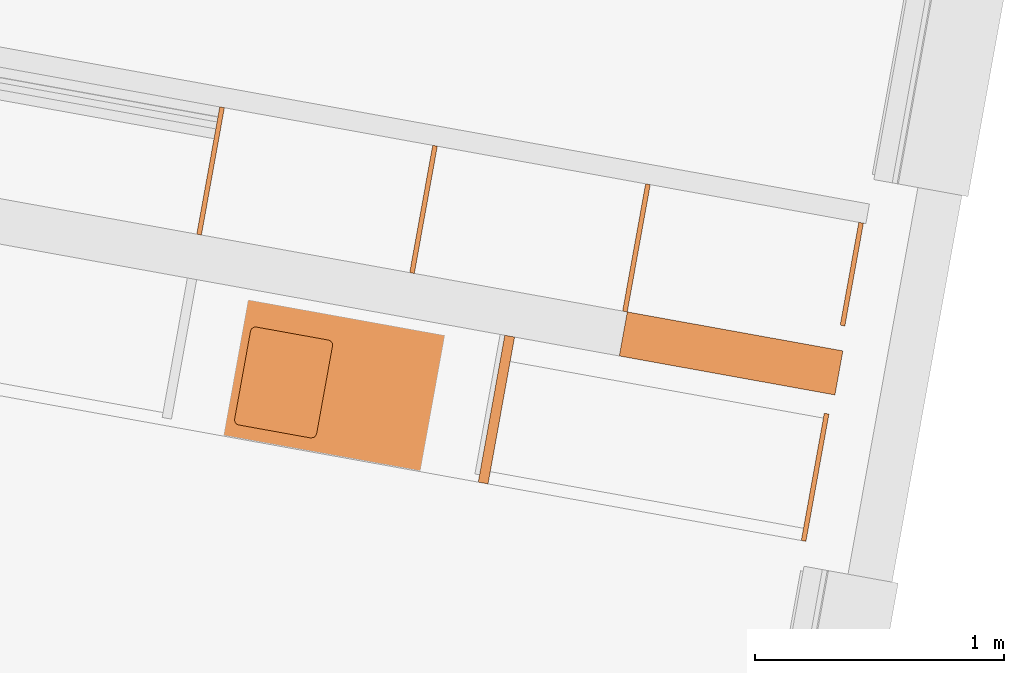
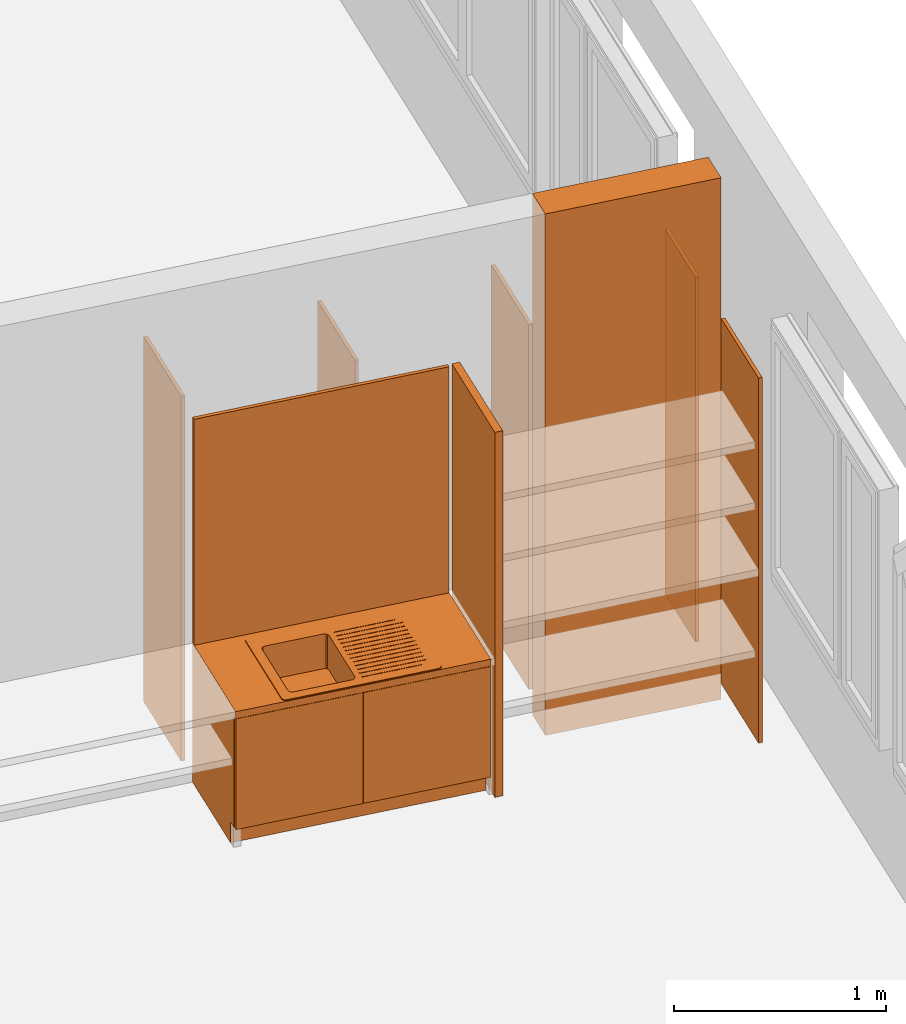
# One storey, part 12 of 52: 8 proxies.
"""IFC2X3 building model written with IfcOpenShell, lengths in metres."""

from ifc_helpers import new_model, entity, si_unit, converted_unit, derived_unit, money_unit, direction, frame, origin_with_axes, place, context, subcontext, project, spatial, polyline, outline, extrude, open_shell, faceted_brep, surface_model, source, transform, mapped, material, type_object, element, save


model = new_model("IFC2X3")

# Units and contexts
model_context = context("Model", 3, precision=1e-05, world=origin_with_axes(), true_north=direction((0.0, 1.0)))
body_context = subcontext(model_context, "Body", "Model", "MODEL_VIEW")
ifc_project = project(units=[si_unit("LENGTHUNIT", "METRE"), si_unit("AREAUNIT", "SQUARE_METRE"), si_unit("VOLUMEUNIT", "CUBIC_METRE"), converted_unit("PLANEANGLEUNIT", "DEGREE", entity("IfcPlaneAngleMeasure", 0.0174532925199), si_unit("PLANEANGLEUNIT", "RADIAN"), dimensions=[0, 0, 0, 0, 0, 0, 0]), money_unit("CHF"), converted_unit("TIMEUNIT", "Year", entity("IfcTimeMeasure", 31556926.0), si_unit("TIMEUNIT", "SECOND"), dimensions=[0, 0, 1, 0, 0, 0, 0]), si_unit("MASSUNIT", "GRAM", prefix="KILO"), si_unit("THERMODYNAMICTEMPERATUREUNIT", "DEGREE_CELSIUS"), si_unit("LUMINOUSINTENSITYUNIT", "LUMEN"), si_unit("ENERGYUNIT", "JOULE", prefix="MEGA"), derived_unit("THERMALCONDUCTANCEUNIT", [(si_unit("POWERUNIT", "WATT"), 1), (si_unit("LENGTHUNIT", "METRE"), -1), (si_unit("THERMODYNAMICTEMPERATUREUNIT", "KELVIN"), -1)]), derived_unit("SPECIFICHEATCAPACITYUNIT", [(si_unit("ENERGYUNIT", "JOULE"), 1), (si_unit("MASSUNIT", "GRAM", prefix="KILO"), -1), (si_unit("THERMODYNAMICTEMPERATUREUNIT", "KELVIN"), -1)]), derived_unit("MASSDENSITYUNIT", [(si_unit("MASSUNIT", "GRAM", prefix="KILO"), 1), (si_unit("VOLUMEUNIT", "CUBIC_METRE"), -1)])], contexts=[model_context])

# Site, building, storey
site_placement = place(None, frame((0.0, 0.0, 0.0), z_axis=(0.0, 0.0, 1.0), x_axis=(-0.177771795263, -0.984071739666, 0.0)))
site = spatial("IfcSite", under=ifc_project, at=site_placement, Name="Site", CompositionType="ELEMENT")
building_placement = place(site_placement, origin_with_axes())
building = spatial("IfcBuilding", under=site, at=building_placement, Name="Bâtiment", CompositionType="ELEMENT")
storey_placement = place(building_placement, frame((0.0, 0.0, 3.2), z_axis=(0.0, 0.0, 1.0), x_axis=(1.0, 0.0, 0.0)))
storey = spatial("IfcBuildingStorey", under=building, at=storey_placement, Name="R+1", CompositionType="ELEMENT", Elevation=3.2)

# Proxies
ifc_material_1 = material(Name="_panneau mélaminé")
building_element_proxy_type_1 = type_object("IfcBuildingElementProxyType", Name="_panneau mélaminé 40", PredefinedType="NOTDEFINED")
proxy_1_placement = place(storey_placement, frame((156.299841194, -149.826151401, 0.0), z_axis=(0.0, 0.0, 1.0), x_axis=(-1.0, 0.0, 0.0)))
element("IfcBuildingElementProxy", 1, at=proxy_1_placement, inside=storey, type_object=building_element_proxy_type_1, material=ifc_material_1, Name="cloison-fd-classe D", context=body_context, shape_type="SweptSolid", body=[
    extrude(outline(polyline([(0.0, -0.04), (0.600000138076, -0.04), (0.600000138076, 0.0), (0.0, 0.0), (0.0, -0.04)])), origin_with_axes(), (0.0, 0.0, 1.0), 2.1),
])
building_element_proxy_type_2 = type_object("IfcBuildingElementProxyType", Name="_panneau mélaminé 19", PredefinedType="NOTDEFINED")
proxy_2_placement = place(storey_placement, frame((156.299841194, -148.506151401, 0.0), z_axis=(0.0, 0.0, 1.0), x_axis=(-1.0, 0.0, 0.0)))
element("IfcBuildingElementProxy", 2, at=proxy_2_placement, inside=storey, type_object=building_element_proxy_type_2, material=ifc_material_1, Name="cloison-fd-classe D", context=body_context, shape_type="SweptSolid", body=[
    extrude(outline(polyline([(0.0, -0.019), (0.520000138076, -0.019), (0.520000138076, 0.0), (0.0, 0.0), (0.0, -0.019)])), origin_with_axes(), (0.0, 0.0, 1.0), 2.1),
])
proxy_3_placement = place(storey_placement, frame((155.419841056, -148.506152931, 0.0), z_axis=(0.0, 0.0, 1.0), x_axis=(-1.0, 0.0, 0.0)))
element("IfcBuildingElementProxy", 3, at=proxy_3_placement, inside=storey, type_object=building_element_proxy_type_2, material=ifc_material_1, Name="cloison pl-classe", context=body_context, shape_type="SweptSolid", body=[
    extrude(outline(polyline([(0.0, -0.019), (0.41999998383, -0.019), (0.41999998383, 0.0), (0.0, 0.0), (0.0, -0.019)])), origin_with_axes(), (0.0, 0.0, 1.0), 2.1),
])
for number, where, z_axis, x_axis, name in (
    (4, (155.519841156, -149.367651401, 0.0), (0.0, 0.0, 1.0), (-1.0, 0.0, 0.0), "cloison pl-classe"),
    (5, (155.519841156, -150.237651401, 0.0), (0.0, 0.0, 1.0), (-1.0, 0.0, 0.0), "cloison pl-classe"),
):
    element("IfcBuildingElementProxy", number, at=place(storey_placement, frame(where, z_axis=z_axis, x_axis=x_axis)), inside=storey, type_object=building_element_proxy_type_2, material=ifc_material_1, Name=name, context=body_context, shape_type="SweptSolid", body=[
        extrude(outline(polyline([(0.0, -0.0095), (0.520000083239, -0.0095), (0.520000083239, 0.0095), (0.0, 0.0095), (0.0, -0.0095)])), origin_with_axes(), (0.0, 0.0, 1.0), 2.1),
    ])
proxy_4_placement = place(storey_placement, frame((155.51984114, -151.107651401, 0.0), z_axis=(0.0, 0.0, 1.0), x_axis=(-1.0, 0.0, 0.0)))
element("IfcBuildingElementProxy", 6, at=proxy_4_placement, inside=storey, type_object=building_element_proxy_type_2, material=ifc_material_1, Name="cloison pl-classe", context=body_context, shape_type="SweptSolid", body=[
    extrude(outline(polyline([(0.0, -0.0095), (0.520000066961, -0.0095), (0.520000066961, 0.0095), (0.0, 0.0095), (0.0, -0.0095)])), origin_with_axes(), (0.0, 0.0, 1.0), 2.1),
])
ifc_material_2 = material(Name="_BA banché RAL9007")
building_element_proxy_type_3 = type_object("IfcBuildingElementProxyType", Name="_M ext 18 +10 gris 280", PredefinedType="NOTDEFINED")
proxy_5_placement = place(storey_placement, frame((155.699841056, -149.358151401, -0.15), z_axis=(0.0, 0.0, 1.0), x_axis=(0.0, 1.0, 0.0)))
element("IfcBuildingElementProxy", 7, at=proxy_5_placement, inside=storey, type_object=building_element_proxy_type_3, material=ifc_material_2, Name="M retour_isol", context=body_context, shape_type="SweptSolid", body=[
    extrude(outline(polyline([(0.0, 0.0), (0.881001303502, 0.0), (0.881001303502, 0.18), (0.0, 0.18), (0.0, 0.0)])), origin_with_axes(), (0.0, 0.0, 1.0), 3.0),
])
ifc_material_3 = material(Name="Matériau de construction IFC")
building_element_proxy_type_4 = type_object("IfcBuildingElementProxyType", Name="Elément simple avec deux portes 21", PredefinedType="NOTDEFINED")
shared_shape = source(origin_with_axes(), body_context, "Body", "SurfaceModel", [
    surface_model("IfcShellBasedSurfaceModel", [(0.5, 0.600000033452, 0.733), (0.496505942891, 0.600000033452, 0.733460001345), (0.496505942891, 0.620000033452, 0.733460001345), (0.5, 0.620000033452, 0.733), (0.49325, 0.600000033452, 0.734808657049), (0.49325, 0.620000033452, 0.734808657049), (0.503494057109, 0.600000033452, 0.733460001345), (0.503494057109, 0.620000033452, 0.733460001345), (0.490454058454, 0.600000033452, 0.736954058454), (0.490454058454, 0.620000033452, 0.736954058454), (0.50675, 0.600000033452, 0.734808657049), (0.50675, 0.620000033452, 0.734808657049), (0.488308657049, 0.600000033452, 0.73975), (0.488308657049, 0.620000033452, 0.73975), (0.509545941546, 0.600000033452, 0.736954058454), (0.509545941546, 0.620000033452, 0.736954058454), (0.486960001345, 0.600000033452, 0.743005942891), (0.486960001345, 0.620000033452, 0.743005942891), (0.511691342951, 0.600000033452, 0.73975), (0.511691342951, 0.620000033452, 0.73975), (0.4865, 0.600000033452, 0.7465), (0.4865, 0.620000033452, 0.7465), (0.513039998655, 0.600000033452, 0.743005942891), (0.513039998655, 0.620000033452, 0.743005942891), (0.486960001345, 0.600000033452, 0.749994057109), (0.486960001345, 0.620000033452, 0.749994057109), (0.5135, 0.600000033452, 0.7465), (0.5135, 0.620000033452, 0.7465), (0.488308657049, 0.600000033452, 0.75325), (0.488308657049, 0.620000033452, 0.75325), (0.513039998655, 0.600000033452, 0.749994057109), (0.513039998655, 0.620000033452, 0.749994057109), (0.490454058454, 0.600000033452, 0.756045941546), (0.490454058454, 0.620000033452, 0.756045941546), (0.511691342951, 0.600000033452, 0.75325), (0.511691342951, 0.620000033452, 0.75325), (0.49325, 0.600000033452, 0.758191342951), (0.49325, 0.620000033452, 0.758191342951), (0.509545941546, 0.600000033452, 0.756045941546), (0.509545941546, 0.620000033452, 0.756045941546), (0.496505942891, 0.600000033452, 0.759539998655), (0.496505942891, 0.620000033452, 0.759539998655), (0.50675, 0.600000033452, 0.758191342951), (0.50675, 0.620000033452, 0.758191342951), (0.5, 0.600000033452, 0.76), (0.5, 0.620000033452, 0.76), (0.503494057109, 0.600000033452, 0.759539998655), (0.503494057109, 0.620000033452, 0.759539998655)], [open_shell([[[0, 1, 2, 3]], [[1, 4, 5, 2]], [[6, 0, 3, 7]], [[4, 8, 9, 5]], [[10, 6, 7, 11]], [[8, 12, 13, 9]], [[14, 10, 11, 15]], [[12, 16, 17, 13]], [[18, 14, 15, 19]], [[16, 20, 21, 17]], [[22, 18, 19, 23]], [[20, 24, 25, 21]], [[26, 22, 23, 27]], [[24, 28, 29, 25]], [[30, 26, 27, 31]], [[28, 32, 33, 29]], [[34, 30, 31, 35]], [[32, 36, 37, 33]], [[38, 34, 35, 39]], [[36, 40, 41, 37]], [[42, 38, 39, 43]], [[40, 44, 45, 41]], [[46, 42, 43, 47]], [[44, 46, 47, 45]]])]),
    surface_model("IfcShellBasedSurfaceModel", [(0.7, 0.600000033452, 0.733), (0.696505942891, 0.600000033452, 0.733460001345), (0.696505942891, 0.620000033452, 0.733460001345), (0.7, 0.620000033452, 0.733), (0.69325, 0.600000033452, 0.734808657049), (0.69325, 0.620000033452, 0.734808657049), (0.703494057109, 0.600000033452, 0.733460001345), (0.703494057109, 0.620000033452, 0.733460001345), (0.690454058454, 0.600000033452, 0.736954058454), (0.690454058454, 0.620000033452, 0.736954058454), (0.70675, 0.600000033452, 0.734808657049), (0.70675, 0.620000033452, 0.734808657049), (0.688308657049, 0.600000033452, 0.73975), (0.688308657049, 0.620000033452, 0.73975), (0.709545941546, 0.600000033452, 0.736954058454), (0.709545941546, 0.620000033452, 0.736954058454), (0.686960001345, 0.600000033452, 0.743005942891), (0.686960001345, 0.620000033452, 0.743005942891), (0.711691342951, 0.600000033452, 0.73975), (0.711691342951, 0.620000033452, 0.73975), (0.6865, 0.600000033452, 0.7465), (0.6865, 0.620000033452, 0.7465), (0.713039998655, 0.600000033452, 0.743005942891), (0.713039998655, 0.620000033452, 0.743005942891), (0.686960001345, 0.600000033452, 0.749994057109), (0.686960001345, 0.620000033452, 0.749994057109), (0.7135, 0.600000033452, 0.7465), (0.7135, 0.620000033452, 0.7465), (0.688308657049, 0.600000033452, 0.75325), (0.688308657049, 0.620000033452, 0.75325), (0.713039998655, 0.600000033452, 0.749994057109), (0.713039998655, 0.620000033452, 0.749994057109), (0.690454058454, 0.600000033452, 0.756045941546), (0.690454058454, 0.620000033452, 0.756045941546), (0.711691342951, 0.600000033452, 0.75325), (0.711691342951, 0.620000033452, 0.75325), (0.69325, 0.600000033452, 0.758191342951), (0.69325, 0.620000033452, 0.758191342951), (0.709545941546, 0.600000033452, 0.756045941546), (0.709545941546, 0.620000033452, 0.756045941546), (0.696505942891, 0.600000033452, 0.759539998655), (0.696505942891, 0.620000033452, 0.759539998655), (0.70675, 0.600000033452, 0.758191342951), (0.70675, 0.620000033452, 0.758191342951), (0.7, 0.600000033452, 0.76), (0.7, 0.620000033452, 0.76), (0.703494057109, 0.600000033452, 0.759539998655), (0.703494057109, 0.620000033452, 0.759539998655)], [open_shell([[[0, 1, 2, 3]], [[1, 4, 5, 2]], [[6, 0, 3, 7]], [[4, 8, 9, 5]], [[10, 6, 7, 11]], [[8, 12, 13, 9]], [[14, 10, 11, 15]], [[12, 16, 17, 13]], [[18, 14, 15, 19]], [[16, 20, 21, 17]], [[22, 18, 19, 23]], [[20, 24, 25, 21]], [[26, 22, 23, 27]], [[24, 28, 29, 25]], [[30, 26, 27, 31]], [[28, 32, 33, 29]], [[34, 30, 31, 35]], [[32, 36, 37, 33]], [[38, 34, 35, 39]], [[36, 40, 41, 37]], [[42, 38, 39, 43]], [[40, 44, 45, 41]], [[46, 42, 43, 47]], [[44, 46, 47, 45]]])]),
    surface_model("IfcShellBasedSurfaceModel", [(0.6, 0.600000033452, 0.579), (0.594564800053, 0.600000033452, 0.579715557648), (0.594564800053, 0.620000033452, 0.579715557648), (0.6, 0.620000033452, 0.579), (0.5895, 0.600000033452, 0.581813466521), (0.5895, 0.620000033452, 0.581813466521), (0.605435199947, 0.600000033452, 0.579715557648), (0.605435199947, 0.620000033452, 0.579715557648), (0.585150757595, 0.600000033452, 0.585150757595), (0.585150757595, 0.620000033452, 0.585150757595), (0.6105, 0.600000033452, 0.581813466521), (0.6105, 0.620000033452, 0.581813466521), (0.581813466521, 0.600000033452, 0.5895), (0.581813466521, 0.620000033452, 0.5895), (0.614849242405, 0.600000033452, 0.585150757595), (0.614849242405, 0.620000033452, 0.585150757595), (0.579715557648, 0.600000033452, 0.594564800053), (0.579715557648, 0.620000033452, 0.594564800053), (0.618186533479, 0.600000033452, 0.5895), (0.618186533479, 0.620000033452, 0.5895), (0.579, 0.600000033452, 0.6), (0.579, 0.620000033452, 0.6), (0.620284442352, 0.600000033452, 0.594564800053), (0.620284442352, 0.620000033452, 0.594564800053), (0.579715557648, 0.600000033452, 0.605435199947), (0.579715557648, 0.620000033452, 0.605435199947), (0.621, 0.600000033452, 0.6), (0.621, 0.620000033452, 0.6), (0.581813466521, 0.600000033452, 0.6105), (0.581813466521, 0.620000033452, 0.6105), (0.620284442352, 0.600000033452, 0.605435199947), (0.620284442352, 0.620000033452, 0.605435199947), (0.585150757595, 0.600000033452, 0.614849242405), (0.585150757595, 0.620000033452, 0.614849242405), (0.618186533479, 0.600000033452, 0.6105), (0.618186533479, 0.620000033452, 0.6105), (0.5895, 0.600000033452, 0.618186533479), (0.5895, 0.620000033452, 0.618186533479), (0.614849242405, 0.600000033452, 0.614849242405), (0.614849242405, 0.620000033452, 0.614849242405), (0.594564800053, 0.600000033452, 0.620284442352), (0.594564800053, 0.620000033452, 0.620284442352), (0.6105, 0.600000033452, 0.618186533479), (0.6105, 0.620000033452, 0.618186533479), (0.6, 0.600000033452, 0.621), (0.6, 0.620000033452, 0.621), (0.605435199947, 0.600000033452, 0.620284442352), (0.605435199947, 0.620000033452, 0.620284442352)], [open_shell([[[0, 1, 2, 3]], [[1, 4, 5, 2]], [[6, 0, 3, 7]], [[4, 8, 9, 5]], [[10, 6, 7, 11]], [[8, 12, 13, 9]], [[14, 10, 11, 15]], [[12, 16, 17, 13]], [[18, 14, 15, 19]], [[16, 20, 21, 17]], [[22, 18, 19, 23]], [[20, 24, 25, 21]], [[26, 22, 23, 27]], [[24, 28, 29, 25]], [[30, 26, 27, 31]], [[28, 32, 33, 29]], [[34, 30, 31, 35]], [[32, 36, 37, 33]], [[38, 34, 35, 39]], [[36, 40, 41, 37]], [[42, 38, 39, 43]], [[40, 44, 45, 41]], [[46, 42, 43, 47]], [[44, 46, 47, 45]]])]),
    faceted_brep([(0.0, 0.07, 0.0), (1.278, 0.07, 0.0), (1.278, 0.07, 0.12), (0.0, 0.07, 0.12), (0.0, 0.600000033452, 0.0), (1.278, 0.600000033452, 0.0), (1.278, 0.600000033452, 0.12), (0.0, 0.600000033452, 0.12)], [[[0, 1, 2, 3]], [[0, 4, 5, 1]], [[1, 5, 6, 2]], [[3, 2, 6, 7]], [[4, 0, 3, 7]], [[5, 4, 7, 6]]]),
    faceted_brep([(0.0, 0.02, 0.12), (0.02, 0.02, 0.12), (0.02, 0.02, 0.14), (0.0, 0.02, 0.14), (0.0, 0.600000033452, 0.12), (0.02, 0.600000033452, 0.12), (1.258, 0.600000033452, 0.12), (1.278, 0.600000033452, 0.12), (1.278, 0.02, 0.12), (1.258, 0.02, 0.12), (1.258, 0.02, 0.14), (1.278, 0.02, 0.14), (1.278, 0.600000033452, 0.14), (1.258, 0.600000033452, 0.14), (0.02, 0.600000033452, 0.14), (0.0, 0.600000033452, 0.14)], [[[0, 1, 2, 3]], [[0, 4, 5, 6, 7, 8, 9, 1]], [[1, 9, 10, 2]], [[3, 2, 10, 11, 12, 13, 14, 15]], [[4, 0, 3, 15]], [[5, 4, 15, 14]], [[6, 5, 14, 13]], [[7, 6, 13, 12]], [[8, 7, 12, 11]], [[9, 8, 11, 10]]]),
    faceted_brep([(0.0, 0.02, 0.14), (0.02, 0.02, 0.14), (0.02, 0.02, 0.76), (0.0, 0.02, 0.76), (0.0, 0.600000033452, 0.14), (1.278, 0.600000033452, 0.14), (1.278, 0.02, 0.14), (1.258, 0.02, 0.14), (1.258, 0.580000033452, 0.14), (0.02, 0.580000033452, 0.14), (0.02, 0.580000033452, 0.76), (1.258, 0.580000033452, 0.76), (1.258, 0.02, 0.76), (1.278, 0.02, 0.76), (1.278, 0.600000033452, 0.76), (0.0, 0.600000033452, 0.76)], [[[0, 1, 2, 3]], [[0, 4, 5, 6, 7, 8, 9, 1]], [[1, 9, 10, 2]], [[3, 2, 10, 11, 12, 13, 14, 15]], [[4, 0, 3, 15]], [[5, 4, 15, 14]], [[6, 5, 14, 13]], [[7, 6, 13, 12]], [[8, 7, 12, 11]], [[9, 8, 11, 10]]]),
    faceted_brep([(1.258, 0.02, 0.41), (1.258, 0.580000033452, 0.41), (1.258, 0.580000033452, 0.43), (1.258, 0.02, 0.43), (0.02, 0.02, 0.41), (0.02, 0.580000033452, 0.41), (0.02, 0.580000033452, 0.43), (0.02, 0.02, 0.43)], [[[0, 1, 2, 3]], [[0, 4, 5, 1]], [[1, 5, 6, 2]], [[3, 2, 6, 7]], [[4, 0, 3, 7]], [[5, 4, 7, 6]]]),
    surface_model("IfcShellBasedSurfaceModel", [(0.309, 0.0550000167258, 0.605), (0.604, 0.0550000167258, 0.605), (0.604, 0.0550000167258, 0.8), (0.309, 0.0550000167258, 0.8), (0.299, 0.0576795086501, 0.605), (0.291679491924, 0.0650000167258, 0.605), (0.289, 0.0750000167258, 0.605), (0.289, 0.435000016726, 0.605), (0.291679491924, 0.445000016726, 0.605), (0.299, 0.452320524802, 0.605), (0.309, 0.455000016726, 0.605), (0.604, 0.455000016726, 0.605), (0.614, 0.452320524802, 0.605), (0.621320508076, 0.445000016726, 0.605), (0.624, 0.435000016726, 0.605), (0.624, 0.0750000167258, 0.605), (0.618142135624, 0.0608578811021, 0.605), (0.618142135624, 0.0608578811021, 0.8), (0.299, 0.0576795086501, 0.8), (0.291679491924, 0.0650000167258, 0.8), (0.289, 0.0750000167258, 0.8), (0.289, 0.435000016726, 0.8), (0.291679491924, 0.445000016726, 0.8), (0.299, 0.452320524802, 0.8), (0.309, 0.455000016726, 0.8), (0.604, 0.455000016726, 0.8), (0.614, 0.452320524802, 0.8), (0.621320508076, 0.445000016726, 0.8), (0.624, 0.435000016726, 0.8), (0.624, 0.0750000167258, 0.8)], [open_shell([[[0, 1, 2, 3]], [[0, 4, 5, 6, 7, 8, 9, 10, 11, 12, 13, 14, 15, 16, 1]], [[1, 16, 17, 2]], [[4, 0, 3, 18]], [[5, 4, 18, 19]], [[6, 5, 19, 20]], [[7, 6, 20, 21]], [[8, 7, 21, 22]], [[9, 8, 22, 23]], [[10, 9, 23, 24]], [[11, 10, 24, 25]], [[12, 11, 25, 26]], [[13, 12, 26, 27]], [[14, 13, 27, 28]], [[15, 14, 28, 29]], [[16, 15, 29, 17]]])]),
    faceted_brep([(0.259, 0.00500001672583, 0.8), (1.019, 0.00500001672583, 0.8), (1.019, 0.00500001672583, 0.805), (0.259, 0.00500001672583, 0.805), (0.249, 0.00767950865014, 0.8), (0.241679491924, 0.0150000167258, 0.8), (0.239, 0.0250000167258, 0.8), (0.239, 0.535000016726, 0.8), (0.241679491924, 0.545000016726, 0.8), (0.249, 0.552320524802, 0.8), (0.259, 0.555000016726, 0.8), (1.019, 0.555000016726, 0.8), (1.029, 0.552320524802, 0.8), (1.03632050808, 0.545000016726, 0.8), (1.039, 0.535000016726, 0.8), (1.039, 0.0250000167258, 0.8), (1.03314213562, 0.0108578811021, 0.8), (0.309, 0.0550000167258, 0.8), (0.604, 0.0550000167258, 0.8), (0.618142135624, 0.0608578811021, 0.8), (0.624, 0.0750000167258, 0.8), (0.624, 0.435000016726, 0.8), (0.621320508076, 0.445000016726, 0.8), (0.614, 0.452320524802, 0.8), (0.604, 0.455000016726, 0.8), (0.309, 0.455000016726, 0.8), (0.299, 0.452320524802, 0.8), (0.291679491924, 0.445000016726, 0.8), (0.289, 0.435000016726, 0.8), (0.289, 0.0750000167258, 0.8), (0.291679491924, 0.0650000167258, 0.8), (0.299, 0.0576795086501, 0.8), (1.03314213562, 0.0108578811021, 0.805), (1.039, 0.0250000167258, 0.805), (1.039, 0.535000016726, 0.805), (1.03632050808, 0.545000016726, 0.805), (1.029, 0.552320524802, 0.805), (1.019, 0.555000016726, 0.805), (0.259, 0.555000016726, 0.805), (0.249, 0.552320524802, 0.805), (0.241679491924, 0.545000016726, 0.805), (0.239, 0.535000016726, 0.805), (0.239, 0.0250000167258, 0.805), (0.241679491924, 0.0150000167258, 0.805), (0.249, 0.00767950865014, 0.805), (0.309, 0.0550000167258, 0.805), (0.299, 0.0576795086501, 0.805), (0.291679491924, 0.0650000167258, 0.805), (0.289, 0.0750000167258, 0.805), (0.289, 0.435000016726, 0.805), (0.291679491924, 0.445000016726, 0.805), (0.299, 0.452320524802, 0.805), (0.309, 0.455000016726, 0.805), (0.604, 0.455000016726, 0.805), (0.614, 0.452320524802, 0.805), (0.621320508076, 0.445000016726, 0.805), (0.624, 0.435000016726, 0.805), (0.624, 0.0750000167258, 0.805), (0.618142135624, 0.0608578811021, 0.805), (0.604, 0.0550000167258, 0.805)], [[[0, 1, 2, 3]], [[0, 4, 5, 6, 7, 8, 9, 10, 11, 12, 13, 14, 15, 16, 1], [17, 18, 19, 20, 21, 22, 23, 24, 25, 26, 27, 28, 29, 30, 31]], [[1, 16, 32, 2]], [[3, 2, 32, 33, 34, 35, 36, 37, 38, 39, 40, 41, 42, 43, 44], [45, 46, 47, 48, 49, 50, 51, 52, 53, 54, 55, 56, 57, 58, 59]], [[4, 0, 3, 44]], [[5, 4, 44, 43]], [[6, 5, 43, 42]], [[7, 6, 42, 41]], [[8, 7, 41, 40]], [[9, 8, 40, 39]], [[10, 9, 39, 38]], [[11, 10, 38, 37]], [[12, 11, 37, 36]], [[13, 12, 36, 35]], [[14, 13, 35, 34]], [[15, 14, 34, 33]], [[16, 15, 33, 32]], [[18, 17, 45, 59]], [[19, 18, 59, 58]], [[20, 19, 58, 57]], [[21, 20, 57, 56]], [[22, 21, 56, 55]], [[23, 22, 55, 54]], [[24, 23, 54, 53]], [[25, 24, 53, 52]], [[26, 25, 52, 51]], [[27, 26, 51, 50]], [[28, 27, 50, 49]], [[29, 28, 49, 48]], [[30, 29, 48, 47]], [[31, 30, 47, 46]], [[17, 31, 46, 45]]]),
    faceted_brep([(0.654, 0.0600000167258, 0.805), (0.959, 0.0600000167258, 0.805), (0.959, 0.0600000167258, 0.807), (0.654, 0.0600000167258, 0.807), (0.654, 0.0650000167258, 0.805), (0.959, 0.0650000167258, 0.805), (0.959, 0.0650000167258, 0.807), (0.654, 0.0650000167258, 0.807)], [[[0, 1, 2, 3]], [[0, 4, 5, 1]], [[1, 5, 6, 2]], [[3, 2, 6, 7]], [[4, 0, 3, 7]], [[5, 4, 7, 6]]]),
    faceted_brep([(0.654, 0.0925000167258, 0.805), (0.989, 0.0925000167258, 0.805), (0.989, 0.0925000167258, 0.807), (0.654, 0.0925000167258, 0.807), (0.654, 0.0975000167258, 0.805), (0.989, 0.0975000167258, 0.805), (0.989, 0.0975000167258, 0.807), (0.654, 0.0975000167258, 0.807)], [[[0, 1, 2, 3]], [[0, 4, 5, 1]], [[1, 5, 6, 2]], [[3, 2, 6, 7]], [[4, 0, 3, 7]], [[5, 4, 7, 6]]]),
    faceted_brep([(0.654, 0.125000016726, 0.805), (0.989, 0.125000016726, 0.805), (0.989, 0.125000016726, 0.807), (0.654, 0.125000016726, 0.807), (0.654, 0.130000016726, 0.805), (0.989, 0.130000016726, 0.805), (0.989, 0.130000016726, 0.807), (0.654, 0.130000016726, 0.807)], [[[0, 1, 2, 3]], [[0, 4, 5, 1]], [[1, 5, 6, 2]], [[3, 2, 6, 7]], [[4, 0, 3, 7]], [[5, 4, 7, 6]]]),
    faceted_brep([(0.654, 0.157500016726, 0.805), (0.989, 0.157500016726, 0.805), (0.989, 0.157500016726, 0.807), (0.654, 0.157500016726, 0.807), (0.654, 0.162500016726, 0.805), (0.989, 0.162500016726, 0.805), (0.989, 0.162500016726, 0.807), (0.654, 0.162500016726, 0.807)], [[[0, 1, 2, 3]], [[0, 4, 5, 1]], [[1, 5, 6, 2]], [[3, 2, 6, 7]], [[4, 0, 3, 7]], [[5, 4, 7, 6]]]),
    faceted_brep([(0.654, 0.190000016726, 0.805), (0.989, 0.190000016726, 0.805), (0.989, 0.190000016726, 0.807), (0.654, 0.190000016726, 0.807), (0.654, 0.195000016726, 0.805), (0.989, 0.195000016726, 0.805), (0.989, 0.195000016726, 0.807), (0.654, 0.195000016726, 0.807)], [[[0, 1, 2, 3]], [[0, 4, 5, 1]], [[1, 5, 6, 2]], [[3, 2, 6, 7]], [[4, 0, 3, 7]], [[5, 4, 7, 6]]]),
    faceted_brep([(0.654, 0.222500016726, 0.805), (0.989, 0.222500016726, 0.805), (0.989, 0.222500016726, 0.807), (0.654, 0.222500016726, 0.807), (0.654, 0.227500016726, 0.805), (0.989, 0.227500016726, 0.805), (0.989, 0.227500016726, 0.807), (0.654, 0.227500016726, 0.807)], [[[0, 1, 2, 3]], [[0, 4, 5, 1]], [[1, 5, 6, 2]], [[3, 2, 6, 7]], [[4, 0, 3, 7]], [[5, 4, 7, 6]]]),
    faceted_brep([(0.654, 0.255000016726, 0.805), (0.989, 0.255000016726, 0.805), (0.989, 0.255000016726, 0.807), (0.654, 0.255000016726, 0.807), (0.654, 0.260000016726, 0.805), (0.989, 0.260000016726, 0.805), (0.989, 0.260000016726, 0.807), (0.654, 0.260000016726, 0.807)], [[[0, 1, 2, 3]], [[0, 4, 5, 1]], [[1, 5, 6, 2]], [[3, 2, 6, 7]], [[4, 0, 3, 7]], [[5, 4, 7, 6]]]),
    faceted_brep([(0.654, 0.287500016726, 0.805), (0.989, 0.287500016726, 0.805), (0.989, 0.287500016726, 0.807), (0.654, 0.287500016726, 0.807), (0.654, 0.292500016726, 0.805), (0.989, 0.292500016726, 0.805), (0.989, 0.292500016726, 0.807), (0.654, 0.292500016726, 0.807)], [[[0, 1, 2, 3]], [[0, 4, 5, 1]], [[1, 5, 6, 2]], [[3, 2, 6, 7]], [[4, 0, 3, 7]], [[5, 4, 7, 6]]]),
    faceted_brep([(0.654, 0.320000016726, 0.805), (0.989, 0.320000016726, 0.805), (0.989, 0.320000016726, 0.807), (0.654, 0.320000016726, 0.807), (0.654, 0.325000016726, 0.805), (0.989, 0.325000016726, 0.805), (0.989, 0.325000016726, 0.807), (0.654, 0.325000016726, 0.807)], [[[0, 1, 2, 3]], [[0, 4, 5, 1]], [[1, 5, 6, 2]], [[3, 2, 6, 7]], [[4, 0, 3, 7]], [[5, 4, 7, 6]]]),
    faceted_brep([(0.654, 0.352500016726, 0.805), (0.989, 0.352500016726, 0.805), (0.989, 0.352500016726, 0.807), (0.654, 0.352500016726, 0.807), (0.654, 0.357500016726, 0.805), (0.989, 0.357500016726, 0.805), (0.989, 0.357500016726, 0.807), (0.654, 0.357500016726, 0.807)], [[[0, 1, 2, 3]], [[0, 4, 5, 1]], [[1, 5, 6, 2]], [[3, 2, 6, 7]], [[4, 0, 3, 7]], [[5, 4, 7, 6]]]),
    faceted_brep([(0.654, 0.385000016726, 0.805), (0.989, 0.385000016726, 0.805), (0.989, 0.385000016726, 0.807), (0.654, 0.385000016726, 0.807), (0.654, 0.390000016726, 0.805), (0.989, 0.390000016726, 0.805), (0.989, 0.390000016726, 0.807), (0.654, 0.390000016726, 0.807)], [[[0, 1, 2, 3]], [[0, 4, 5, 1]], [[1, 5, 6, 2]], [[3, 2, 6, 7]], [[4, 0, 3, 7]], [[5, 4, 7, 6]]]),
    faceted_brep([(0.654, 0.417500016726, 0.805), (0.989, 0.417500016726, 0.805), (0.989, 0.417500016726, 0.807), (0.654, 0.417500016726, 0.807), (0.654, 0.422500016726, 0.805), (0.989, 0.422500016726, 0.805), (0.989, 0.422500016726, 0.807), (0.654, 0.422500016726, 0.807)], [[[0, 1, 2, 3]], [[0, 4, 5, 1]], [[1, 5, 6, 2]], [[3, 2, 6, 7]], [[4, 0, 3, 7]], [[5, 4, 7, 6]]]),
    faceted_brep([(0.654, 0.450000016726, 0.805), (0.959, 0.450000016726, 0.805), (0.959, 0.450000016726, 0.807), (0.654, 0.450000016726, 0.807), (0.654, 0.455000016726, 0.805), (0.959, 0.455000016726, 0.805), (0.959, 0.455000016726, 0.807), (0.654, 0.455000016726, 0.807)], [[[0, 1, 2, 3]], [[0, 4, 5, 1]], [[1, 5, 6, 2]], [[3, 2, 6, 7]], [[4, 0, 3, 7]], [[5, 4, 7, 6]]]),
    faceted_brep([(0.0, 0.0, 0.76), (1.278, 0.0, 0.76), (1.278, 0.0, 0.8), (0.0, 0.0, 0.8), (0.0, 0.600000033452, 0.76), (1.278, 0.600000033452, 0.76), (0.264, 0.0500000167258, 0.76), (1.014, 0.0500000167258, 0.76), (1.014, 0.535000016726, 0.76), (0.264, 0.535000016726, 0.76), (1.278, 0.600000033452, 0.8), (0.0, 0.600000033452, 0.8), (0.264, 0.0500000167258, 0.8), (0.264, 0.535000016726, 0.8), (1.014, 0.535000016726, 0.8), (1.014, 0.0500000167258, 0.8)], [[[0, 1, 2, 3]], [[0, 4, 5, 1], [6, 7, 8, 9]], [[1, 5, 10, 2]], [[3, 2, 10, 11], [12, 13, 14, 15]], [[4, 0, 3, 11]], [[5, 4, 11, 10]], [[7, 6, 12, 15]], [[8, 7, 15, 14]], [[9, 8, 14, 13]], [[6, 9, 13, 12]]]),
    faceted_brep([(0.0, 0.580000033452, 0.8), (1.278, 0.580000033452, 0.8), (1.278, 0.580000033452, 2.1), (0.0, 0.580000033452, 2.1), (0.0, 0.600000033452, 0.8), (1.278, 0.600000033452, 0.8), (1.278, 0.600000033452, 2.1), (0.0, 0.600000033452, 2.1)], [[[0, 1, 2, 3]], [[0, 4, 5, 1]], [[1, 5, 6, 2]], [[3, 2, 6, 7]], [[4, 0, 3, 7]], [[5, 4, 7, 6]]]),
    faceted_brep([(0.0015, 0.02, 0.1215), (0.6375, 0.02, 0.1215), (0.6375, 0.0, 0.1215), (0.0015, 0.0, 0.1215), (0.0015, 0.02, 0.7585), (0.6375, 0.02, 0.7585), (0.6375, 0.0, 0.7585), (0.0015, 0.0, 0.7585)], [[[0, 1, 2, 3]], [[0, 4, 5, 1]], [[1, 5, 6, 2]], [[3, 2, 6, 7]], [[4, 0, 3, 7]], [[5, 4, 7, 6]]]),
    faceted_brep([(1.2765, 0.02, 0.1215), (1.2765, 0.0, 0.1215), (0.6405, 0.0, 0.1215), (0.6405, 0.02, 0.1215), (1.2765, 0.02, 0.7585), (1.2765, 0.0, 0.7585), (0.6405, 0.0, 0.7585), (0.6405, 0.02, 0.7585)], [[[0, 1, 2, 3]], [[4, 5, 1, 0]], [[1, 5, 6, 2]], [[3, 2, 6, 7]], [[0, 3, 7, 4]], [[7, 6, 5, 4]]]),
])
proxy_6_placement = place(storey_placement, frame((156.299841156, -151.124151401, 0.0), z_axis=(0.0, 0.0, 1.0), x_axis=(0.0, 1.0, 0.0)))
element("IfcBuildingElementProxy", 8, at=proxy_6_placement, inside=storey, type_object=building_element_proxy_type_4, material=ifc_material_3, Name="evier-classe", context=body_context, shape_type="MappedRepresentation", body=[
    mapped(shared_shape, transform((0.0, 0.0, 0.0))),
])

save(model, "model.ifc")
